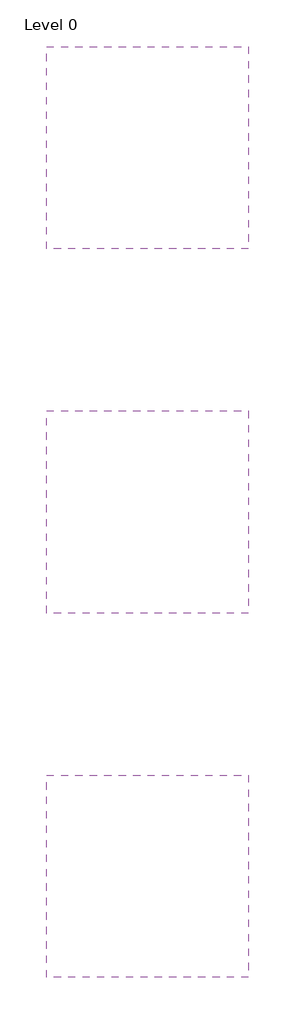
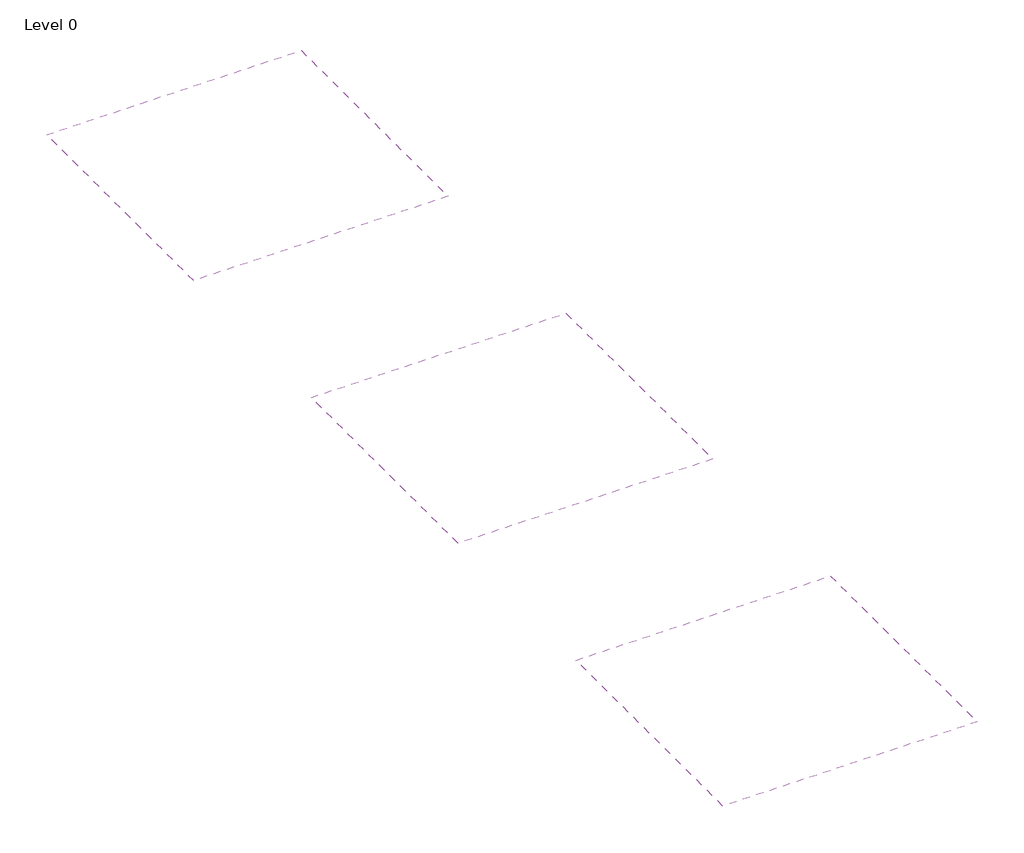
# One storey: 3 coverings.
"""IFC4 building model written with IfcOpenShell, lengths in millimetres."""

from ifc_helpers import new_model, si_unit, frame, origin, place, context, project, spatial, polyline, outline, extrude, element, save

model = new_model("IFC4")

# Units and contexts
model_context = context("Model", 3, world=origin())
ifc_project = project(units=[si_unit("LENGTHUNIT", "METRE", prefix="MILLI")], contexts=[model_context])

# Site, building, storey
site = spatial("IfcSite", under=ifc_project)
building = spatial("IfcBuilding", under=site)
storey = spatial("IfcBuildingStorey", under=building, Name="Level 0", Elevation=0.0)

# Coverings
placement = place(None, origin())
element("IfcCovering", 1, ObjectType="NBS_Zentia_ModularSuspendedCeilingSystems_OpliaHAdB_BoardEdgeProfiles", at=placement, inside=storey, context=model_context, shape_type="SweptSolid", body=[
    extrude(outline(polyline([(2999.979, -2408.8157792), (2999.979, -4908.8157792), (499.979, -4908.8157792), (499.979, -2408.8157792), (2999.979, -2408.8157792)])), frame((0.0, 0.0, 2600.0), z_axis=(0.0, 0.0, 1.0), x_axis=(1.0, 0.0, 0.0)), (0.0, 0.0, 1.0), 40.0),
])
element("IfcCovering", 2, ObjectType="NBS_Zentia_ModularSuspendedCeilingSystems_OpliaHAdB_Tegular15EdgeProfiles", at=placement, inside=storey, context=model_context, shape_type="SweptSolid", body=[
    extrude(outline(polyline([(2999.979, -6908.8157792), (2999.979, -9408.8157792), (499.979, -9408.8157792), (499.979, -6908.8157792), (2999.979, -6908.8157792)])), frame((0.0, 0.0, 2600.0), z_axis=(0.0, 0.0, 1.0), x_axis=(1.0, 0.0, 0.0)), (0.0, 0.0, 1.0), 40.0),
])
element("IfcCovering", 3, ObjectType="NBS_Zentia_ModularSuspendedCeilingSystems_OpliaHAdB_Tegular24EdgeProfiles", at=placement, inside=storey, context=model_context, shape_type="SweptSolid", body=[
    extrude(outline(polyline([(2999.979, -11408.8157792), (2999.979, -13908.8157792), (499.979, -13908.8157792), (499.979, -11408.8157792), (2999.979, -11408.8157792)])), frame((0.0, 0.0, 2600.0), z_axis=(0.0, 0.0, 1.0), x_axis=(1.0, 0.0, 0.0)), (0.0, 0.0, 1.0), 40.0),
])

save(model, "model.ifc")
